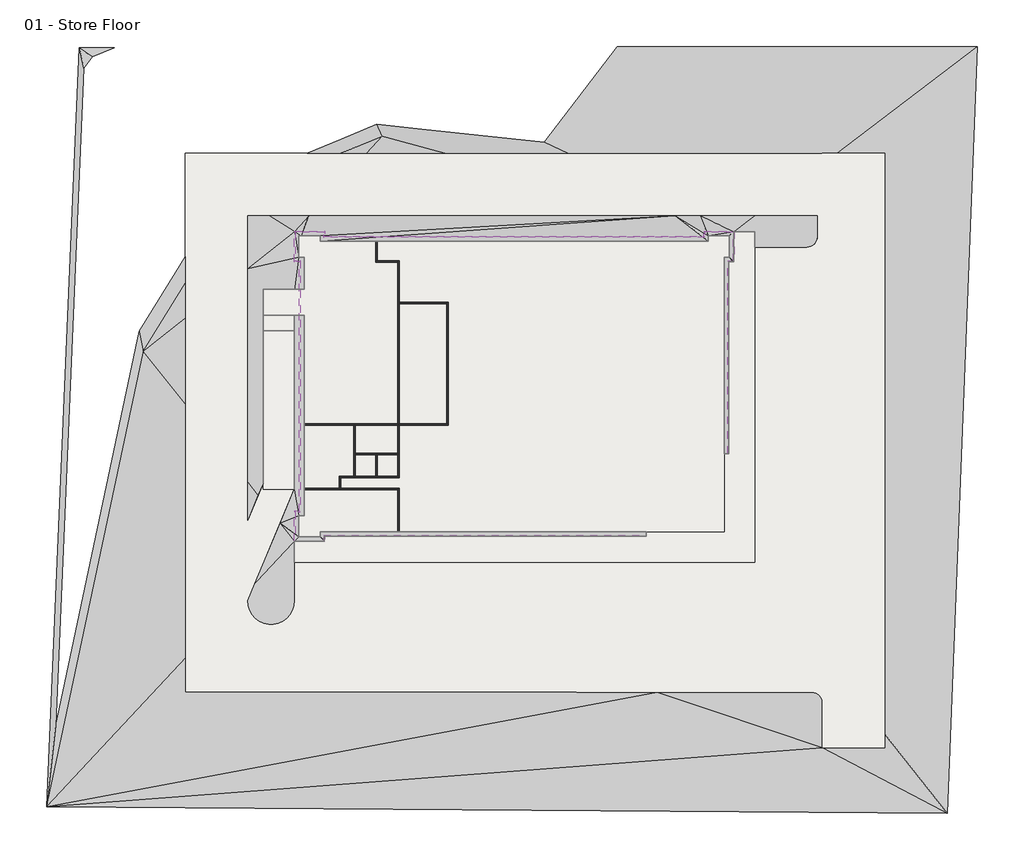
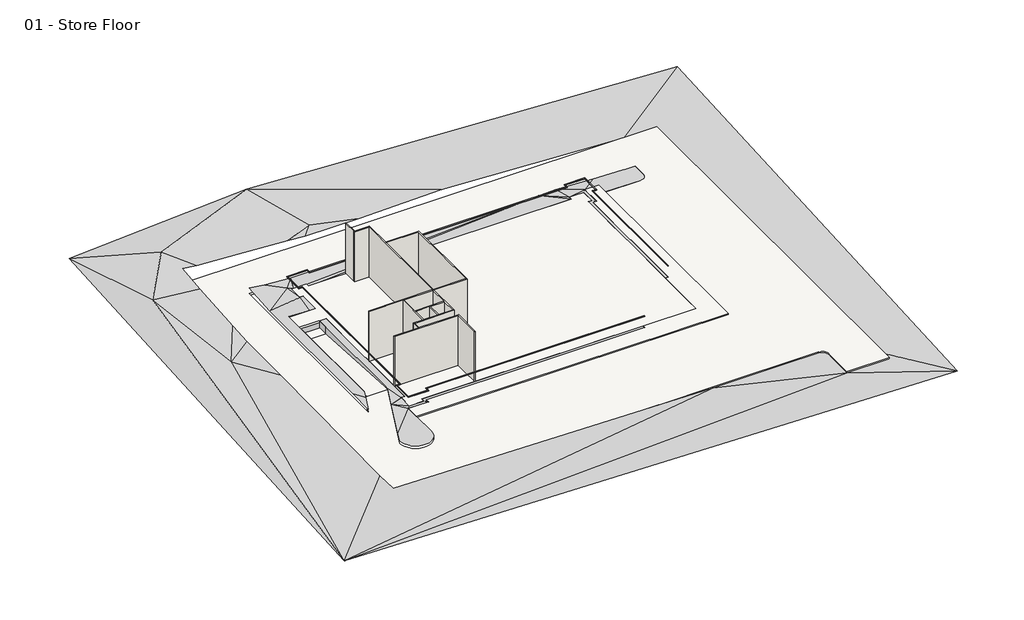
# One storey, incomplete: 21 proxies, 13 walls, 5 slabs.
"""IFC4 building model written with IfcOpenShell, lengths in millimetres."""

from ifc_helpers import new_model, si_unit, point, frame, frame_2d, origin, origin_with_axes, place, context, project, spatial, polyline, circle_curve, trimmed, segment, composite_curve, outline, extrude, faceted_brep, triangles, element, save

model = new_model("IFC4")

# Units and contexts
model_context = context("Model", 3, world=origin())
ifc_project = project(units=[si_unit("LENGTHUNIT", "METRE", prefix="MILLI")], contexts=[model_context])

# Site, building, storey
site = spatial("IfcSite", under=ifc_project)
building = spatial("IfcBuilding", under=site)
storey = spatial("IfcBuildingStorey", under=building, Name="01 - Store Floor", Elevation=0.0)

# Proxies
placement = place(None, origin())
element("IfcBuildingElementProxy", 1, Name="Reveals", at=placement, inside=storey, context=model_context, shape_type="SweptSolid", body=[
    extrude(outline(polyline([(10855.5272279, -14331.9313057), (10855.5272279, -14434.4313057), (-20003.9727721, -14434.4313057), (-20106.4727721, -14331.9313057), (10855.5272279, -14331.9313057)])), frame((0.0, 0.0, 1675.0), z_axis=(0.0, 0.0, 1.0), x_axis=(1.0, 0.0, 0.0)), (0.0, 0.0, 1.0), 75.0),
])
element("IfcBuildingElementProxy", 2, Name="Reveals", at=placement, inside=storey, context=model_context, shape_type="SweptSolid", body=[
    extrude(outline(polyline([(-20106.4727721, -14331.9313057), (-20003.9727721, -14434.4313057), (-20003.9727721, -14934.2313057), (-20106.4727721, -14831.7313057), (-20106.4727721, -14331.9313057)])), frame((0.0, 0.0, 1675.0), z_axis=(0.0, 0.0, 1.0), x_axis=(1.0, 0.0, 0.0)), (0.0, 0.0, 1.0), 75.0),
])
element("IfcBuildingElementProxy", 3, Name="Reveals", at=placement, inside=storey, context=model_context, shape_type="SweptSolid", body=[
    extrude(outline(polyline([(-20106.4727721, -14831.7313057), (-20003.9727721, -14934.2313057), (-22946.9727721, -14934.2313057), (-22844.4727721, -14831.7313057), (-20106.4727721, -14831.7313057)])), frame((0.0, 0.0, 1675.0), z_axis=(0.0, 0.0, 1.0), x_axis=(1.0, 0.0, 0.0)), (0.0, 0.0, 1.0), 75.0),
])
element("IfcBuildingElementProxy", 4, Name="Reveals", at=placement, inside=storey, context=model_context, shape_type="SweptSolid", body=[
    extrude(outline(polyline([(-22844.4727721, -14831.7313057), (-22946.9727721, -14934.2313057), (-22946.9727721, -11991.2313057), (-22844.4727721, -12093.7313057), (-22844.4727721, -14831.7313057)])), frame((0.0, 0.0, 1675.0), z_axis=(0.0, 0.0, 1.0), x_axis=(1.0, 0.0, 0.0)), (0.0, 0.0, 1.0), 75.0),
])
element("IfcBuildingElementProxy", 5, Name="Reveals", at=placement, inside=storey, context=model_context, shape_type="SweptSolid", body=[
    extrude(outline(polyline([(-22844.4727721, -12093.7313057), (-22946.9727721, -11991.2313057), (-22446.9727721, -11991.2313057), (-22344.4727721, -12093.7313057), (-22844.4727721, -12093.7313057)])), frame((0.0, 0.0, 1675.0), z_axis=(0.0, 0.0, 1.0), x_axis=(1.0, 0.0, 0.0)), (0.0, 0.0, 1.0), 75.0),
])
element("IfcBuildingElementProxy", 6, Name="Reveals", at=placement, inside=storey, context=model_context, shape_type="SweptSolid", body=[
    extrude(outline(polyline([(-22344.4727721, -12093.7313057), (-22446.9727721, -11991.2313057), (-22446.9727721, 11927.5686943), (-22344.4727721, 12030.0686943), (-22344.4727721, -12093.7313057)])), frame((0.0, 0.0, 1675.0), z_axis=(0.0, 0.0, 1.0), x_axis=(1.0, 0.0, 0.0)), (0.0, 0.0, 1.0), 75.0),
])
element("IfcBuildingElementProxy", 7, Name="Reveals", at=placement, inside=storey, context=model_context, shape_type="SweptSolid", body=[
    extrude(outline(polyline([(-22344.4727721, 12030.0686943), (-22446.9727721, 11927.5686943), (-22946.9727721, 11927.5686943), (-22844.4727721, 12030.0686943), (-22344.4727721, 12030.0686943)])), frame((0.0, 0.0, 1675.0), z_axis=(0.0, 0.0, 1.0), x_axis=(1.0, 0.0, 0.0)), (0.0, 0.0, 1.0), 75.0),
])
element("IfcBuildingElementProxy", 8, Name="Reveals", at=placement, inside=storey, context=model_context, shape_type="SweptSolid", body=[
    extrude(outline(polyline([(-22844.4727721, 12030.0686943), (-22946.9727721, 11927.5686943), (-22946.9727721, 14870.5686943), (-22844.4727721, 14768.0686943), (-22844.4727721, 12030.0686943)])), frame((0.0, 0.0, 1675.0), z_axis=(0.0, 0.0, 1.0), x_axis=(1.0, 0.0, 0.0)), (0.0, 0.0, 1.0), 75.0),
])
element("IfcBuildingElementProxy", 9, Name="Reveals", at=placement, inside=storey, context=model_context, shape_type="SweptSolid", body=[
    extrude(outline(polyline([(-22844.4727721, 14768.0686943), (-22946.9727721, 14870.5686943), (-20003.9727721, 14870.5686943), (-20106.4727721, 14768.0686943), (-22844.4727721, 14768.0686943)])), frame((0.0, 0.0, 1675.0), z_axis=(0.0, 0.0, 1.0), x_axis=(1.0, 0.0, 0.0)), (0.0, 0.0, 1.0), 75.0),
])
element("IfcBuildingElementProxy", 10, Name="Reveals", at=placement, inside=storey, context=model_context, shape_type="SweptSolid", body=[
    extrude(outline(polyline([(-20106.4727721, 14768.0686943), (-20003.9727721, 14870.5686943), (-20003.9727721, 14370.5686943), (-20106.4727721, 14268.0686943), (-20106.4727721, 14768.0686943)])), frame((0.0, 0.0, 1675.0), z_axis=(0.0, 0.0, 1.0), x_axis=(1.0, 0.0, 0.0)), (0.0, 0.0, 1.0), 75.0),
])
element("IfcBuildingElementProxy", 11, Name="Reveals", at=placement, inside=storey, context=model_context, shape_type="SweptSolid", body=[
    extrude(outline(polyline([(-20106.4727721, 14268.0686943), (-20003.9727721, 14370.5686943), (16365.0272279, 14370.5686943), (16467.5272279, 14268.0686943), (-20106.4727721, 14268.0686943)])), frame((0.0, 0.0, 1675.0), z_axis=(0.0, 0.0, 1.0), x_axis=(1.0, 0.0, 0.0)), (0.0, 0.0, 1.0), 75.0),
])
element("IfcBuildingElementProxy", 12, Name="Reveals", at=placement, inside=storey, context=model_context, shape_type="SweptSolid", body=[
    extrude(outline(polyline([(16467.5272279, 14268.0686943), (16365.0272279, 14370.5686943), (16365.0272279, 14870.5686943), (16467.5272279, 14768.0686943), (16467.5272279, 14268.0686943)])), frame((0.0, 0.0, 1675.0), z_axis=(0.0, 0.0, 1.0), x_axis=(1.0, 0.0, 0.0)), (0.0, 0.0, 1.0), 75.0),
])
element("IfcBuildingElementProxy", 13, Name="Reveals", at=placement, inside=storey, context=model_context, shape_type="SweptSolid", body=[
    extrude(outline(polyline([(16467.5272279, 14768.0686943), (16365.0272279, 14870.5686943), (19308.0272279, 14870.5686943), (19205.5272279, 14768.0686943), (16467.5272279, 14768.0686943)])), frame((0.0, 0.0, 1675.0), z_axis=(0.0, 0.0, 1.0), x_axis=(1.0, 0.0, 0.0)), (0.0, 0.0, 1.0), 75.0),
])
element("IfcBuildingElementProxy", 14, Name="Reveals", at=placement, inside=storey, context=model_context, shape_type="SweptSolid", body=[
    extrude(outline(polyline([(19205.5272279, 14768.0686943), (19308.0272279, 14870.5686943), (19308.0272279, 11927.5686943), (19205.5272279, 12030.0686943), (19205.5272279, 14768.0686943)])), frame((0.0, 0.0, 1675.0), z_axis=(0.0, 0.0, 1.0), x_axis=(1.0, 0.0, 0.0)), (0.0, 0.0, 1.0), 75.0),
])
element("IfcBuildingElementProxy", 15, Name="Reveals", at=placement, inside=storey, context=model_context, shape_type="SweptSolid", body=[
    extrude(outline(polyline([(19205.5272279, 12030.0686943), (19308.0272279, 11927.5686943), (18808.0272279, 11927.5686943), (18705.5272279, 12030.0686943), (19205.5272279, 12030.0686943)])), frame((0.0, 0.0, 1675.0), z_axis=(0.0, 0.0, 1.0), x_axis=(1.0, 0.0, 0.0)), (0.0, 0.0, 1.0), 75.0),
])
element("IfcBuildingElementProxy", 16, Name="Reveals", at=placement, inside=storey, context=model_context, shape_type="SweptSolid", body=[
    extrude(outline(polyline([(18705.5272279, 12030.0686943), (18808.0272279, 11927.5686943), (18808.0272279, -6481.9313057), (18705.5272279, -6481.9313057), (18705.5272279, 12030.0686943)])), frame((0.0, 0.0, 1675.0), z_axis=(0.0, 0.0, 1.0), x_axis=(1.0, 0.0, 0.0)), (0.0, 0.0, 1.0), 75.0),
])
element("IfcBuildingElementProxy", 17, Name="Building Element Proxy", at=placement, inside=storey, context=model_context, shape_type="Tessellation", body=[
    triangles([(-43566.3082031, 32462.523175, 1000.0000076), (-46716.2229126, -40393.2088623, 1000.0000076), (39777.6557373, -41004.7343262, -500.0000038), (42663.8237549, 32601.6611938, -500.0000038), (-18392.8342987, 32565.4122437, 2500.0000191), (33780.5264465, -34706.930365, -384.9401665), (27780.5275635, -34706.930365, -383.6411179), (27780.5275635, -30406.9323669, -305.9673343), (27731.5840393, -30097.9140198, -300.3747432), (27589.5438721, -29819.144989, -295.30841), (27368.3131897, -29597.9143066, -291.2642528), (27089.5441589, -29455.8741394, -288.6381413), (26780.5281372, -29406.9306152, -287.6871456), (11915.4122314, -29406.9306152, -284.4687919), (-33419.4717407, -29406.9306152, 509.2660807), (-33419.4717407, -26152.3013672, 432.8553014), (-33419.4717407, -1684.9523849, 719.9349804), (-33419.4717407, 6518.3399185, 720.4169277), (-33419.4717407, 9885.0384888, 1000.0000076), (-33419.4717407, 18055.2002563, 1642.8014694), (-33419.4717407, 22343.0687622, 2044.0540123), (-31378.0544861, 22343.0687622, 1780.8529266), (-25462.4923096, 22343.0687622, 1430.5636974), (-18450.5005463, 22343.0687622, 1000.0000076), (-16016.6502686, 22343.0687622, 817.2966974), (-8441.5899673, 22343.0687622, 817.7947048), (3306.7528107, 22343.0687622, 1051.3779762), (29175.0005859, 22343.0687622, -220.2242939), (33780.5264465, 22343.0687622, -317.0081938), (33780.5264465, 15117.0051819, -319.6062183), (33780.5264465, -33407.95849, -361.4759374), (26280.5260986, 13343.0692749, -162.6334778), (26589.5444458, 13392.0116364, -169.1097904), (26868.3134766, 13534.0518036, -174.9169577), (27089.5441589, 13755.2836487, -179.4865371), (27231.5843262, 14034.0515167, -182.3712447), (27280.5278503, 14343.0687012, -183.2886669), (27280.5278503, 16343.0687164, -182.5695974), (21285.7193481, 16343.0687164, -56.5903049), (16043.3172455, 16343.0687164, 201.1098175), (13662.4242004, 16343.0687164, 153.7723545), (-21518.9074402, 16343.0687164, 151.4593325), (-25294.1537476, 16343.0687164, 434.8579408), (-27419.4728577, 16343.0687164, 722.9589964), (-27419.4728577, 11264.0287354, 301.1768745), (-27419.4728577, -9240.2545898, 299.9721152), (-27419.4728577, -12884.300766, 257.215895), (-26417.4247192, -10502.0496643, 229.83499), (-25919.4737183, -9318.2271561, 195.0878195), (-25919.4737183, 5316.5097885, 195.9477053), (-25919.4737183, 6816.5095093, 196.0358358), (-25919.4737183, 9316.509819, 196.18272), (-22899.116217, 9316.509819, -14.9999997), (-21990.4716797, 9316.509819, -14.9999997), (-21990.4716797, 12384.0685089, -14.9999997), (-22490.4737183, 12384.0685089, -14.9999997), (-22490.4737183, 14414.0690186, -14.9999997), (-22283.239856, 14414.0690186, -14.9999997), (-20460.4720459, 14414.0690186, -14.9999997), (-20460.4720459, 13914.0681427, -14.9999997), (16821.5267212, 13914.0681427, -14.9999997), (16821.5267212, 14414.0690186, -14.9999997), (18851.5272308, 14414.0690186, -14.9999997), (18851.5272308, 12384.0685089, -14.9999997), (18351.5275177, 12384.0685089, -14.9999997), (18351.5275177, -6481.9310944, -14.9999997), (18780.5269135, -6481.9310944, -14.9999997), (18780.5269135, 11955.0691132, -14.9999997), (19231.5447327, 11955.0691132, -14.9999997), (19280.5277893, 11955.0691132, -16.029345), (19280.5277893, 14818.0687775, -14.9999997), (19280.5277893, 14843.0684143, -14.0659235), (19313.3990387, 14843.0684143, -15.6818087), (21280.5266418, 14843.0684143, -57.0204839), (21280.5266418, 13343.0692749, -57.559786), (-22919.473114, -16906.9308105, 31.9598247), (-22919.473114, -14906.7308075, -14.9999997), (-20031.4726501, -14906.7308075, -15.6252635), (-20031.4726501, -14872.1166412, -14.9999997), (-20031.4726501, -14406.9310822, -14.9999997), (10855.5269257, -14406.9310822, -14.9999997), (10855.5269257, -13977.9316864, -14.9999997), (-20460.4720459, -13977.9316864, -14.9999997), (-20460.4720459, -14477.7314117, -14.9999997), (-22490.4737183, -14477.7314117, -14.9999997), (-22490.4737183, -12447.7309021, -14.9999997), (-21990.4716797, -12447.7309021, -14.9999997), (-21990.4716797, 6816.5095093, -14.9999997), (-22901.2184143, 6816.5095093, -14.9999997), (-22919.473114, 6816.5095093, -13.7236173), (-22919.473114, 5316.5097885, -13.8117523), (-22919.473114, -9923.4907928, -14.7072021), (-24289.7755188, -13181.2233398, 80.9126756), (-26734.0263245, -18992.1430664, 147.701713), (-27419.4728577, -20621.7110413, 197.9609908), (-27370.3037659, -21089.5127197, 208.0829929), (-27224.9498474, -21536.8691345, 216.040901), (-26989.7618774, -21944.2279907, 221.4869712), (-26675.0159729, -22293.7880493, 224.1831366), (-26294.471759, -22570.2688477, 224.0115809), (-25864.7607788, -22761.5897278, 220.9798074), (-25404.6609558, -22859.386084, 215.2203116), (-24934.2826904, -22859.386084, 206.9848041), (-24474.1851929, -22761.5897278, 196.6332376), (-24044.4718872, -22570.2688477, 184.6180007), (-23663.9299988, -22293.7880493, 171.4642251), (-23349.1840942, -21944.2279907, 157.746803), (-23113.9961243, -21536.8691345, 144.0652526), (-22968.6398804, -21089.5127197, 131.0175116), (-22919.473114, -20621.7110413, 119.1738304), (-34204.7703186, 26133.4374023, 2500.0000191), (-40234.7441162, 17825.4724182, 2500.0000191), (-14506.8505646, 23989.4473389, 1000.0000076), (-37420.7554138, 3353.5319321, 1000.0000076), (-22894.4723145, 14843.0684143, -14.9999997)], [[2, 15, 16], [114, 2, 16], [95, 100, 101], [96, 99, 100], [101, 102, 95], [96, 97, 99], [95, 96, 100], [95, 110, 94], [97, 98, 99], [103, 95, 102], [46, 47, 48], [104, 105, 95], [105, 106, 95], [107, 108, 95], [109, 95, 108], [106, 107, 95], [109, 110, 95], [77, 94, 76], [94, 110, 76], [78, 85, 77], [94, 77, 93], [85, 86, 93], [88, 91, 92], [92, 93, 86], [92, 86, 87], [93, 77, 85], [104, 95, 103], [14, 15, 2], [114, 18, 19], [18, 114, 17], [114, 19, 112], [44, 45, 43], [52, 45, 51], [49, 50, 46], [114, 16, 17], [1, 112, 111], [1, 2, 112], [111, 112, 21], [5, 1, 111], [20, 112, 19], [21, 22, 111], [20, 21, 112], [111, 22, 23], [45, 52, 56], [112, 2, 114], [50, 51, 45], [46, 50, 45], [91, 89, 90], [89, 91, 88], [45, 115, 43], [56, 115, 45], [42, 43, 115], [52, 53, 56], [56, 53, 54], [57, 58, 115], [56, 57, 115], [54, 55, 56], [42, 115, 58], [46, 48, 49], [5, 111, 23], [83, 84, 80], [85, 78, 84], [79, 84, 78], [79, 80, 84], [82, 80, 81], [82, 83, 80], [88, 92, 87], [66, 67, 68], [65, 68, 64], [68, 65, 66], [10, 8, 9], [7, 8, 13], [6, 3, 31], [3, 6, 7], [7, 14, 2], [8, 10, 11], [69, 70, 64], [64, 68, 69], [11, 12, 13], [11, 13, 8], [75, 32, 74], [31, 3, 30], [13, 14, 7], [2, 3, 7], [64, 70, 71], [59, 60, 41], [59, 42, 58], [62, 40, 41], [72, 62, 63], [62, 72, 40], [62, 41, 61], [41, 60, 61], [24, 5, 23], [5, 24, 113], [27, 5, 26], [25, 113, 24], [113, 25, 26], [5, 113, 26], [42, 59, 41], [4, 5, 27], [64, 71, 63], [71, 72, 63], [34, 35, 37], [36, 37, 35], [34, 37, 33], [32, 37, 38], [73, 74, 39], [39, 74, 32], [39, 32, 38], [73, 39, 72], [29, 4, 28], [4, 29, 30], [30, 3, 4], [4, 27, 28], [40, 72, 39], [33, 37, 32]], closed=False),
])
element("IfcBuildingElementProxy", 18, Name="Building Element Proxy", at=placement, inside=storey, context=model_context, shape_type="Tessellation", body=[
    triangles([(10855.5269257, -13977.9316864, -304.9595106), (10855.5269257, -13977.9316864, -14.9999997), (-20460.4720459, -13977.9316864, -304.9595106), (-20460.4720459, -13977.9316864, -14.9999997), (-20460.4720459, -14477.7314117, -304.9595106), (-20460.4720459, -14477.7314117, -14.9999997), (-22490.4737183, -14477.7314117, -304.9595106), (-22490.4737183, -14477.7314117, -14.9999997), (-22490.4737183, -12447.7309021, -304.9595106), (-22490.4737183, -12447.7309021, -14.9999997), (-21990.4716797, -12447.7309021, -304.9595106), (-21990.4716797, -12447.7309021, -14.9999997), (-21990.4716797, 6816.5095093, -304.9595106), (-21990.4716797, 6816.5095093, -14.9999997), (-22901.2184143, 6816.5095093, -304.9595106), (-22901.2184143, 6816.5095093, -14.9999997), (-22919.473114, 6816.5095093, -304.9595106), (-22919.473114, 6816.5095093, -13.7236173)], [[1, 4, 2], [1, 3, 4], [3, 6, 4], [3, 5, 6], [5, 8, 6], [5, 7, 8], [7, 10, 8], [7, 9, 10], [9, 12, 10], [9, 11, 12], [11, 14, 12], [11, 13, 14], [13, 16, 14], [13, 15, 16], [15, 18, 16], [15, 17, 18]], closed=False),
    triangles([(-25919.4737183, 6816.5095093, -304.9595106), (-25919.4737183, 6816.5095093, 196.0358358), (-25919.4737183, 9316.509819, -304.9595106), (-25919.4737183, 9316.509819, 196.18272), (-22899.116217, 9316.509819, -304.9595106), (-22899.116217, 9316.509819, -14.9999997), (-21990.4716797, 9316.509819, -304.9595106), (-21990.4716797, 9316.509819, -14.9999997), (-21990.4716797, 12384.0685089, -304.9595106), (-21990.4716797, 12384.0685089, -14.9999997), (-22490.4737183, 12384.0685089, -304.9595106), (-22490.4737183, 12384.0685089, -14.9999997), (-22490.4737183, 14414.0690186, -304.9595106), (-22490.4737183, 14414.0690186, -14.9999997), (-22283.239856, 14414.0690186, -304.9595106), (-22283.239856, 14414.0690186, -14.9999997), (-20460.4720459, 14414.0690186, -304.9595106), (-20460.4720459, 14414.0690186, -14.9999997), (-20460.4720459, 13914.0681427, -304.9595106), (-20460.4720459, 13914.0681427, -14.9999997), (16821.5267212, 13914.0681427, -304.9595106), (16821.5267212, 13914.0681427, -14.9999997), (16821.5267212, 14414.0690186, -304.9595106), (16821.5267212, 14414.0690186, -14.9999997), (18851.5272308, 14414.0690186, -304.9595106), (18851.5272308, 14414.0690186, -14.9999997), (18851.5272308, 12384.0685089, -304.9595106), (18851.5272308, 12384.0685089, -14.9999997), (18351.5275177, 12384.0685089, -304.9595106), (18351.5275177, 12384.0685089, -14.9999997), (18351.5275177, -6481.9310944, -304.9595106), (18351.5275177, -6481.9310944, -14.9999997)], [[1, 4, 2], [1, 3, 4], [3, 6, 4], [3, 5, 6], [5, 8, 6], [5, 7, 8], [7, 10, 8], [7, 9, 10], [9, 12, 10], [9, 11, 12], [11, 14, 12], [11, 13, 14], [13, 16, 14], [13, 15, 16], [15, 18, 16], [15, 17, 18], [17, 20, 18], [17, 19, 20], [19, 22, 20], [19, 21, 22], [21, 24, 22], [21, 23, 24], [23, 26, 24], [23, 25, 26], [25, 28, 26], [25, 27, 28], [27, 30, 28], [27, 29, 30], [29, 32, 30], [29, 31, 32]], closed=False),
    triangles([(16821.5267212, 13914.0681427, -304.9595106), (-20460.4720459, 13914.0681427, -304.9595106), (-20460.4720459, 14414.0690186, -304.9595106), (-22490.4737183, 14414.0690186, -304.9595106), (-22490.4737183, 12384.0685089, -304.9595106), (-21990.4716797, 12384.0685089, -304.9595106), (-21990.4716797, 9316.509819, -304.9595106), (-25919.4737183, 9316.509819, -304.9595106), (-25919.4737183, 6816.5095093, -304.9595106), (-21990.4716797, 6816.5095093, -304.9595106), (-21990.4716797, -12447.7309021, -304.9595106), (-22490.4737183, -12447.7309021, -304.9595106), (-22490.4737183, -14477.7314117, -304.9595106), (-20460.4720459, -14477.7314117, -304.9595106), (-20460.4720459, -13977.9316864, -304.9595106), (10855.5269257, -13977.9316864, -304.9595106), (18351.5275177, -13977.9316864, -304.9595106), (18351.5275177, -6481.9310944, -304.9595106), (18351.5275177, 12384.0685089, -304.9595106), (18851.5272308, 12384.0685089, -304.9595106), (18851.5272308, 14414.0690186, -304.9595106), (16821.5267212, 14414.0690186, -304.9595106)], [[11, 12, 13], [2, 7, 10], [13, 15, 11], [9, 10, 7], [4, 5, 6], [2, 4, 6], [7, 2, 6], [4, 2, 3], [8, 9, 7], [10, 11, 15], [16, 10, 15], [16, 17, 18], [1, 10, 16], [1, 16, 18], [10, 1, 2], [22, 1, 21], [19, 20, 21], [19, 21, 1], [18, 19, 1], [15, 13, 14]], closed=False),
])
element("IfcBuildingElementProxy", 19, Name="Building Element Proxy", at=placement, inside=storey, context=model_context, shape_type="Tessellation", body=[
    triangles([(10855.5269257, -13977.9316864, -304.9595106), (10855.5269257, -13977.9316864, -14.9999997), (10855.5269257, -14406.9310822, -304.9595106), (10855.5269257, -14406.9310822, -14.9999997), (-20031.4726501, -14406.9310822, -304.9595106), (-20031.4726501, -14406.9310822, -14.9999997), (-20031.4726501, -14872.1166412, -304.9595106), (-20031.4726501, -14872.1166412, -14.9999997), (-20031.4726501, -14906.7308075, -304.9595106), (-20031.4726501, -14906.7308075, -15.6252635), (-22919.473114, -14906.7308075, -304.9595106), (-22919.473114, -14906.7308075, -14.9999997), (-22919.473114, -16906.9308105, -304.9595106), (-22919.473114, -16906.9308105, 31.9598247)], [[1, 4, 2], [1, 3, 4], [3, 6, 4], [3, 5, 6], [5, 8, 6], [5, 7, 8], [7, 10, 8], [7, 9, 10], [9, 12, 10], [9, 11, 12], [11, 14, 12], [11, 13, 14]], closed=False),
    triangles([(18351.5275177, -6481.9310944, -304.9595106), (18351.5275177, -6481.9310944, -14.9999997), (18780.5269135, -6481.9310944, -304.9595106), (18780.5269135, -6481.9310944, -14.9999997), (18780.5269135, 11955.0691132, -304.9595106), (18780.5269135, 11955.0691132, -14.9999997), (19231.5447327, 11955.0691132, -304.9595106), (19231.5447327, 11955.0691132, -14.9999997), (19280.5277893, 11955.0691132, -304.9595106), (19280.5277893, 11955.0691132, -16.029345), (19280.5277893, 14818.0687775, -304.9595106), (19280.5277893, 14818.0687775, -14.9999997), (19280.5277893, 14843.0684143, -304.9595106), (19280.5277893, 14843.0684143, -14.0659235), (19313.3990387, 14843.0684143, -304.9595106), (19313.3990387, 14843.0684143, -15.6818087), (21280.5266418, 14843.0684143, -304.9595106), (21280.5266418, 14843.0684143, -57.0204839), (21280.5266418, 13343.0692749, -304.9595106), (21280.5266418, 13343.0692749, -57.559786)], [[1, 4, 2], [1, 3, 4], [3, 6, 4], [3, 5, 6], [5, 8, 6], [5, 7, 8], [7, 10, 8], [7, 9, 10], [9, 12, 10], [9, 11, 12], [11, 14, 12], [11, 13, 14], [13, 16, 14], [13, 15, 16], [15, 18, 16], [15, 17, 18], [17, 20, 18], [17, 19, 20]], closed=False),
    triangles([(21280.5266418, 14843.0684143, -304.9595106), (19280.5277893, 14843.0684143, -304.9595106), (19280.5277893, 11955.0691132, -304.9595106), (18780.5269135, 11955.0691132, -304.9595106), (18780.5269135, -6481.9310944, -304.9595106), (18351.5275177, -6481.9310944, -304.9595106), (18351.5275177, -13977.9316864, -304.9595106), (10855.5269257, -13977.9316864, -304.9595106), (10855.5269257, -14406.9310822, -304.9595106), (-20031.4726501, -14406.9310822, -304.9595106), (-20031.4726501, -14906.7308075, -304.9595106), (-22919.473114, -14906.7308075, -304.9595106), (-22919.473114, -16906.9308105, -304.9595106), (21280.5266418, -16906.9308105, -304.9595106)], [[13, 11, 12], [11, 13, 9], [7, 8, 9], [10, 11, 9], [13, 14, 9], [7, 14, 5], [14, 7, 9], [5, 14, 1], [3, 4, 5], [1, 2, 3], [3, 5, 1], [5, 6, 7]], closed=False),
])
element("IfcBuildingElementProxy", 20, Name="Building Element Proxy", at=placement, inside=storey, context=model_context, shape_type="Tessellation", body=[
    triangles([(-25919.4737183, 5316.5097885, -1369.9595478), (-25919.4737183, 5316.5097885, -1370.3489136), (-22919.473114, 5316.5097885, -1369.9595478), (-22919.473114, 5316.5097885, -1370.3489136)], [[1, 4, 2], [1, 3, 4]], closed=False),
    triangles([(-25919.4737183, 6816.5095093, -1369.9595478), (-25919.4737183, 6816.5095093, -304.9595106), (-22919.473114, 6816.5095093, -1369.9595478), (-22919.473114, 6816.5095093, -304.9595106)], [[1, 4, 2], [1, 3, 4]], closed=False),
    triangles([(-22919.473114, 5316.5097885, -1369.9595478), (-22919.473114, 5316.5097885, -13.8117523), (-22919.473114, 6816.5095093, -1369.9595478), (-22919.473114, 6816.5095093, -13.7236173)], [[1, 4, 2], [1, 3, 4]], closed=False),
    triangles([(-25919.4737183, 6816.5095093, -1369.9595478), (-25919.4737183, 6816.5095093, 196.0358358), (-25919.4737183, 5316.5097885, -1369.9595478), (-25919.4737183, 5316.5097885, 195.9477053)], [[1, 4, 2], [1, 3, 4]], closed=False),
    triangles([(-25919.4737183, 6816.5095093, -1369.9595478), (-25919.4737183, 5316.5097885, -1369.9595478), (-22919.473114, 5316.5097885, -1369.9595478), (-22919.473114, 6816.5095093, -1369.9595478)], [[1, 2, 3], [3, 4, 1]], closed=False),
])
element("IfcBuildingElementProxy", 21, Name="Building Element Proxy", at=placement, inside=storey, context=model_context, shape_type="Tessellation", body=[
    triangles([(-22919.473114, -9923.4907928, -455.3488775), (-22919.473114, -9923.4907928, -14.7072021), (-22919.473114, 5316.5097885, -1370.3489136), (-22919.473114, 5316.5097885, -13.8117523)], [[1, 4, 2], [1, 3, 4]], closed=False),
    triangles([(-25919.4737183, 5316.5097885, -1370.3489136), (-25919.4737183, 5316.5097885, 195.9477053), (-25919.4737183, -9318.2271561, -491.6884835), (-25919.4737183, -9318.2271561, 195.0878195)], [[1, 4, 2], [1, 3, 4]], closed=False),
    triangles([(-25919.4737183, 5316.5097885, -1370.3489136), (-25919.4737183, -9923.4907928, -455.3488775), (-22919.473114, -9923.4907928, -455.3488775), (-22919.473114, 5316.5097885, -1370.3489136)], [[1, 2, 3], [3, 4, 1]], closed=False),
])

# Slabs
element("IfcSlab", 22, ObjectType="Pad 1", at=placement, inside=storey, context=model_context, shape_type="SweptSolid", body=[
    extrude(outline(polyline([(16821.5272279, 13914.0686943), (16821.5272279, 14414.0686943), (18851.5272279, 14414.0686943), (18851.5272279, 12384.0686943), (18351.5272279, 12384.0686943), (18351.5272279, -6481.9313057), (18351.5272279, -13977.9313057), (10855.5272279, -13977.9313057), (-20460.4727721, -13977.9313057), (-20460.4727721, -14477.7313057), (-22490.4727721, -14477.7313057), (-22490.4727721, -12447.7313057), (-21990.4727721, -12447.7313057), (-21990.4727721, 6816.509692), (-25919.4727721, 6816.509692), (-25919.4727721, 9316.509692), (-21990.4727721, 9316.509692), (-21990.4727721, 12384.0686943), (-22490.4727721, 12384.0686943), (-22490.4727721, 14414.0686943), (-20460.4727721, 14414.0686943), (-20460.4727721, 13914.0686943), (16821.5272279, 13914.0686943)])), frame((0.0, 0.0, -304.8), z_axis=(0.0, 0.0, 1.0), x_axis=(1.0, 0.0, 0.0)), (0.0, 0.0, 1.0), 304.8),
])
element("IfcSlab", 23, ObjectType="Pad 1", at=placement, inside=storey, context=model_context, shape_type="SweptSolid", body=[
    extrude(outline(polyline([(21280.5272279, 14843.0686943), (21280.5272279, -16906.9313057), (-22919.4727721, -16906.9313057), (-22919.4727721, -14906.7313057), (-20031.4727721, -14906.7313057), (-20031.4727721, -14406.9313057), (10855.5272279, -14406.9313057), (10855.5272279, -13977.9313057), (18351.5272279, -13977.9313057), (18351.5272279, -6481.9313057), (18780.5272279, -6481.9313057), (18780.5272279, 11955.0686943), (19280.5272279, 11955.0686943), (19280.5272279, 14843.0686943), (21280.5272279, 14843.0686943)])), frame((0.0, 0.0, -304.8), z_axis=(0.0, 0.0, 1.0), x_axis=(1.0, 0.0, 0.0)), (0.0, 0.0, 1.0), 304.8),
])
element("IfcSlab", 24, ObjectType="Pad 1", at=placement, inside=storey, context=model_context, shape_type="SweptSolid", body=[
    extrude(outline(composite_curve([segment(polyline([(33780.5272279, -34706.9313057), (27780.5272279, -34706.9313057), (27780.5272279, -30406.9313057)]), True, "CONTINUOUS"), segment(trimmed(circle_curve(frame_2d((26780.5272279, -30406.9313057)), 1000.0), [point((27780.5272279, -30406.9313057))], [point((26780.5272279, -29406.9313057))], True, "CARTESIAN"), True, "CONTINUOUS"), segment(polyline([(26780.5272279, -29406.9313057), (-33419.4727721, -29406.9313057), (-33419.4727721, 22343.0686943), (33780.5272279, 22343.0686943), (33780.5272279, -34706.9313057)]), True, "CONTINUOUS")], self_intersect=False), holes=[composite_curve([segment(trimmed(circle_curve(frame_2d((26280.5272279, 14343.0686943)), 1000.0), [point((26280.5272279, 13343.0686943))], [point((27280.5272279, 14343.0686943))], True, "CARTESIAN"), True, "CONTINUOUS"), segment(polyline([(27280.5272279, 14343.0686943), (27280.5272279, 16343.0686943), (-27419.4727721, 16343.0686943), (-27419.4727721, -12884.3008421), (-25919.4727721, -9318.2269035), (-25919.4727721, -9923.490308), (-22919.4727721, -9923.490308), (-27419.4727721, -20621.7121237)]), True, "CONTINUOUS"), segment(trimmed(circle_curve(frame_2d((-25169.4727721, -20621.7121237)), 2250.0), [point((-27419.4727721, -20621.7121237))], [point((-22919.4727721, -20621.7121237))], True, "CARTESIAN"), True, "CONTINUOUS"), segment(polyline([(-22919.4727721, -20621.7121237), (-22919.4727721, -16906.9313057), (21280.5272279, -16906.9313057), (21280.5272279, 13343.0686943), (26280.5272279, 13343.0686943)]), True, "CONTINUOUS")], self_intersect=False)]), frame((0.0, 0.0, -454.8), z_axis=(0.0, 0.0, 1.0), x_axis=(1.0, 0.0, 0.0)), (0.0, 0.0, 1.0), 304.8),
])
element("IfcSlab", 25, ObjectType="Pad 1", at=placement, inside=storey, context=model_context, shape_type="SweptSolid", body=[
    extrude(outline(polyline([(-25919.4727721, 6816.509692), (-22919.4727721, 6816.509692), (-22919.4727721, 5316.509692), (-25919.4727721, 5316.509692), (-25919.4727721, 6816.509692)])), frame((0.0, 0.0, -1369.8), z_axis=(0.0, 0.0, 1.0), x_axis=(1.0, 0.0, 0.0)), (0.0, 0.0, 1.0), 304.8),
])
element("IfcSlab", 26, ObjectType="Pad 1", at=placement, inside=storey, context=model_context, shape_type="SweptSolid", body=[
    extrude(outline(polyline([(5316.509692, -1370.3488661), (-9923.490308, -455.3488661), (-9923.490308, -150.0), (5316.509692, -1065.0), (5316.509692, -1370.3488661)])), frame((-25919.4727721, 0.0, 0.0), z_axis=(1.0, 0.0, 0.0), x_axis=(0.0, 1.0, 0.0)), (0.0, 0.0, 1.0), 3000.0),
])

# Walls
element("IfcWall", 27, ObjectType="Interior - 138mm Partition (1-hr)", at=placement, inside=storey, context=model_context, shape_type="Brep", body=[
    faceted_brep([(-12850.2227721, -13977.9313057, 0.0), (-12850.2227721, -9826.1813057, 0.0), (-12850.2227721, -9826.1813057, 7500.0), (-12850.2227721, -13977.9313057, 7500.0), (-12988.7227721, -13977.9313057, 0.0), (-12988.7227721, -13977.9313057, 7500.0), (-12988.7227721, -9964.6813057, 7500.0), (-12988.7227721, -9826.1813057, 7500.0), (-12988.7227721, -9826.1813057, 0.0), (-12988.7227721, -9964.6813057, 0.0)], [[[0, 1, 2, 3]], [[4, 5, 6, 7, 8, 9]], [[1, 0, 4, 9, 8]], [[3, 2, 7, 6, 5]], [[0, 3, 5, 4]], [[2, 1, 8, 7]]]),
])
element("IfcWall", 28, ObjectType="Interior - 138mm Partition (1-hr)", at=placement, inside=storey, context=model_context, shape_type="Brep", body=[
    faceted_brep([(-12988.7227721, 12024.3186943, 0.0), (-14950.2227721, 12024.3186943, 0.0), (-15088.7227721, 12024.3186943, 0.0), (-15088.7227721, 12024.3186943, 7500.0), (-14950.2227721, 12024.3186943, 7500.0), (-12988.7227721, 12024.3186943, 7500.0), (-12988.7227721, 11885.8186943, 0.0), (-12988.7227721, 11885.8186943, 7500.0), (-15088.7227721, 11885.8186943, 7500.0), (-15088.7227721, 11885.8186943, 0.0)], [[[0, 1, 2, 3, 4, 5]], [[6, 7, 8, 9]], [[2, 1, 0, 6, 9]], [[5, 4, 3, 8, 7]], [[0, 5, 7, 6]], [[3, 2, 9, 8]]]),
])
element("IfcWall", 29, ObjectType="Interior - 138mm Partition (1-hr)", at=placement, inside=storey, context=model_context, shape_type="SweptSolid", body=[
    extrude(outline(polyline([(-14950.2227721, 13914.0686943), (-14950.2227721, 12024.3186943), (-15088.7227721, 12024.3186943), (-15088.7227721, 13914.0686943), (-14950.2227721, 13914.0686943)])), origin_with_axes(), (0.0, 0.0, 1.0), 7500.0),
])
element("IfcWall", 30, ObjectType="Interior - 138mm Partition (1-hr)", at=placement, inside=storey, context=model_context, shape_type="Brep", body=[
    faceted_brep([(-12850.2227721, -8637.6813057, 0.0), (-12988.7227721, -8637.6813057, 0.0), (-14965.5977721, -8637.6813057, 0.0), (-15104.0977721, -8637.6813057, 0.0), (-17080.9727721, -8637.6813057, 0.0), (-17219.4727721, -8637.6813057, 0.0), (-18588.7227721, -8637.6813057, 0.0), (-18588.7227721, -8637.6813057, 7500.0), (-17219.4727721, -8637.6813057, 7500.0), (-17080.9727721, -8637.6813057, 7500.0), (-15104.0977721, -8637.6813057, 7500.0), (-14965.5977721, -8637.6813057, 7500.0), (-12988.7227721, -8637.6813057, 7500.0), (-12850.2227721, -8637.6813057, 7500.0), (-12850.2227721, -8776.1813057, 0.0), (-12850.2227721, -8776.1813057, 7500.0), (-18450.2227721, -8776.1813057, 7500.0), (-18588.7227721, -8776.1813057, 7500.0), (-18588.7227721, -8776.1813057, 0.0), (-18450.2227721, -8776.1813057, 0.0)], [[[0, 1, 2, 3, 4, 5, 6, 7, 8, 9, 10, 11, 12, 13]], [[14, 15, 16, 17, 18, 19]], [[6, 5, 4, 3, 2, 1, 0, 14, 19, 18]], [[13, 12, 11, 10, 9, 8, 7, 17, 16, 15]], [[7, 6, 18, 17]], [[0, 13, 15, 14]]]),
])
element("IfcWall", 31, ObjectType="Interior - 138mm Partition (1-hr)", at=placement, inside=storey, context=model_context, shape_type="SweptSolid", body=[
    extrude(outline(polyline([(-18588.7227721, -9826.1813057), (-18588.7227721, -8776.1813057), (-18450.2227721, -8776.1813057), (-18450.2227721, -9826.1813057), (-18588.7227721, -9826.1813057)])), origin_with_axes(), (0.0, 0.0, 1.0), 7500.0),
])
element("IfcWall", 32, ObjectType="Interior - 138mm Partition (1-hr)", at=placement, inside=storey, context=model_context, shape_type="Brep", body=[
    faceted_brep([(-21990.4727721, -9964.6813057, 0.0), (-12988.7227721, -9964.6813057, 0.0), (-12988.7227721, -9964.6813057, 7500.0), (-21990.4727721, -9964.6813057, 7500.0), (-21990.4727721, -9826.1813057, 0.0), (-21990.4727721, -9826.1813057, 7500.0), (-18588.7227721, -9826.1813057, 7500.0), (-18450.2227721, -9826.1813057, 7500.0), (-12988.7227721, -9826.1813057, 7500.0), (-12988.7227721, -9826.1813057, 0.0), (-18450.2227721, -9826.1813057, 0.0), (-18588.7227721, -9826.1813057, 0.0)], [[[0, 1, 2, 3]], [[4, 5, 6, 7, 8, 9, 10, 11]], [[1, 0, 4, 11, 10, 9]], [[3, 2, 8, 7, 6, 5]], [[0, 3, 5, 4]], [[2, 1, 9, 8]]]),
])
element("IfcWall", 33, ObjectType="Interior - 138mm Partition (1-hr)", at=placement, inside=storey, context=model_context, shape_type="Brep", body=[
    faceted_brep([(-17080.9727721, -8637.6813057, 0.0), (-17080.9727721, -6606.9313057, 0.0), (-17080.9727721, -6468.4313057, 0.0), (-17080.9727721, -3776.1813057, 0.0), (-17080.9727721, -3776.1813057, 7500.0), (-17080.9727721, -6468.4313057, 7500.0), (-17080.9727721, -6606.9313057, 7500.0), (-17080.9727721, -8637.6813057, 7500.0), (-17219.4727721, -8637.6813057, 0.0), (-17219.4727721, -8637.6813057, 7500.0), (-17219.4727721, -3776.1813057, 7500.0), (-17219.4727721, -3776.1813057, 0.0)], [[[0, 1, 2, 3, 4, 5, 6, 7]], [[8, 9, 10, 11]], [[3, 2, 1, 0, 8, 11]], [[7, 6, 5, 4, 10, 9]], [[0, 7, 9, 8]], [[4, 3, 11, 10]]]),
])
element("IfcWall", 34, ObjectType="Interior - 138mm Partition (1-hr)", at=placement, inside=storey, context=model_context, shape_type="Brep", body=[
    faceted_brep([(-21990.4727721, -3637.6813057, 0.0), (-21990.4727721, -3637.6813057, 7500.0), (-12988.7227721, -3637.6813057, 7500.0), (-12988.7227721, -3637.6813057, 0.0), (-21990.4727721, -3776.1813057, 7500.0), (-21990.4727721, -3776.1813057, 0.0), (-17219.4727721, -3776.1813057, 0.0), (-17080.9727721, -3776.1813057, 0.0), (-12988.7227721, -3776.1813057, 0.0), (-12988.7227721, -3776.1813057, 7500.0), (-17080.9727721, -3776.1813057, 7500.0), (-17219.4727721, -3776.1813057, 7500.0)], [[[0, 1, 2, 3]], [[4, 5, 6, 7, 8, 9, 10, 11]], [[5, 0, 3, 8, 7, 6]], [[1, 4, 11, 10, 9, 2]], [[1, 0, 5, 4]], [[3, 2, 9, 8]]]),
    faceted_brep([(-8135.7227721, -3637.6813057, 7500.0), (-8135.7227721, -3637.6813057, 0.0), (-8274.2227721, -3637.6813057, 0.0), (-12850.2227721, -3637.6813057, 0.0), (-12850.2227721, -3637.6813057, 7500.0), (-8274.2227721, -3637.6813057, 7500.0), (-8135.7227721, -3776.1813057, 0.0), (-8135.7227721, -3776.1813057, 7500.0), (-12850.2227721, -3776.1813057, 7500.0), (-12850.2227721, -3776.1813057, 0.0)], [[[0, 1, 2, 3, 4, 5]], [[6, 7, 8, 9]], [[1, 6, 9, 3, 2]], [[7, 0, 5, 4, 8]], [[1, 0, 7, 6]], [[4, 3, 9, 8]]]),
])
element("IfcWall", 35, ObjectType="Interior - 138mm Partition (1-hr)", at=placement, inside=storey, context=model_context, shape_type="Brep", body=[
    faceted_brep([(-8135.7227721, -3637.6813057, 0.0), (-8135.7227721, 8062.3186943, 0.0), (-8135.7227721, 8062.3186943, 7500.0), (-8135.7227721, -3637.6813057, 7500.0), (-8274.2227721, -3637.6813057, 0.0), (-8274.2227721, -3637.6813057, 7500.0), (-8274.2227721, 7923.8186943, 7500.0), (-8274.2227721, 8062.3186943, 7500.0), (-8274.2227721, 8062.3186943, 0.0), (-8274.2227721, 7923.8186943, 0.0)], [[[0, 1, 2, 3]], [[4, 5, 6, 7, 8, 9]], [[1, 0, 4, 9, 8]], [[3, 2, 7, 6, 5]], [[0, 3, 5, 4]], [[2, 1, 8, 7]]]),
])
element("IfcWall", 36, ObjectType="Interior - 138mm Partition (1-hr)", at=placement, inside=storey, context=model_context, shape_type="SweptSolid", body=[
    extrude(outline(polyline([(-12850.2227721, 8062.3186943), (-8274.2227721, 8062.3186943), (-8274.2227721, 7923.8186943), (-12850.2227721, 7923.8186943), (-12850.2227721, 8062.3186943)])), origin_with_axes(), (0.0, 0.0, 1.0), 7500.0),
])
element("IfcWall", 37, ObjectType="Interior - 138mm Partition (1-hr)", at=placement, inside=storey, context=model_context, shape_type="Brep", body=[
    faceted_brep([(-12988.7227721, -6468.4313057, 0.0), (-17080.9727721, -6468.4313057, 0.0), (-17080.9727721, -6468.4313057, 7500.0), (-12988.7227721, -6468.4313057, 7500.0), (-12988.7227721, -6606.9313057, 0.0), (-12988.7227721, -6606.9313057, 7500.0), (-14965.5977721, -6606.9313057, 7500.0), (-15104.0977721, -6606.9313057, 7500.0), (-17080.9727721, -6606.9313057, 7500.0), (-17080.9727721, -6606.9313057, 0.0), (-15104.0977721, -6606.9313057, 0.0), (-14965.5977721, -6606.9313057, 0.0)], [[[0, 1, 2, 3]], [[4, 5, 6, 7, 8, 9, 10, 11]], [[1, 0, 4, 11, 10, 9]], [[3, 2, 8, 7, 6, 5]], [[0, 3, 5, 4]], [[2, 1, 9, 8]]]),
])
element("IfcWall", 38, ObjectType="Interior - 138mm Partition (1-hr)", at=placement, inside=storey, context=model_context, shape_type="SweptSolid", body=[
    extrude(outline(polyline([(-15104.0977721, -8637.6813057), (-15104.0977721, -6606.9313057), (-14965.5977721, -6606.9313057), (-14965.5977721, -8637.6813057), (-15104.0977721, -8637.6813057)])), origin_with_axes(), (0.0, 0.0, 1.0), 7500.0),
])
element("IfcWall", 39, ObjectType="Interior - 138mm Partition (1-hr)", at=placement, inside=storey, context=model_context, shape_type="Brep", body=[
    faceted_brep([(-12850.2227721, -8637.6813057, 0.0), (-12850.2227721, -3776.1813057, 0.0), (-12850.2227721, -3637.6813057, 0.0), (-12850.2227721, 7923.8186943, 0.0), (-12850.2227721, 8062.3186943, 0.0), (-12850.2227721, 12024.3186943, 0.0), (-12850.2227721, 12024.3186943, 7500.0), (-12850.2227721, 8062.3186943, 7500.0), (-12850.2227721, 7923.8186943, 7500.0), (-12850.2227721, -3637.6813057, 7500.0), (-12850.2227721, -3776.1813057, 7500.0), (-12850.2227721, -8637.6813057, 7500.0), (-12988.7227721, -8637.6813057, 0.0), (-12988.7227721, -8637.6813057, 7500.0), (-12988.7227721, -6606.9313057, 7500.0), (-12988.7227721, -6468.4313057, 7500.0), (-12988.7227721, -3776.1813057, 7500.0), (-12988.7227721, -3637.6813057, 7500.0), (-12988.7227721, 11885.8186943, 7500.0), (-12988.7227721, 12024.3186943, 7500.0), (-12988.7227721, 12024.3186943, 0.0), (-12988.7227721, 11885.8186943, 0.0), (-12988.7227721, -3637.6813057, 0.0), (-12988.7227721, -3776.1813057, 0.0), (-12988.7227721, -6468.4313057, 0.0), (-12988.7227721, -6606.9313057, 0.0)], [[[0, 1, 2, 3, 4, 5, 6, 7, 8, 9, 10, 11]], [[12, 13, 14, 15, 16, 17, 18, 19, 20, 21, 22, 23, 24, 25]], [[5, 4, 3, 2, 1, 0, 12, 25, 24, 23, 22, 21, 20]], [[11, 10, 9, 8, 7, 6, 19, 18, 17, 16, 15, 14, 13]], [[6, 5, 20, 19]], [[0, 11, 13, 12]]]),
])

save(model, "model.ifc")
